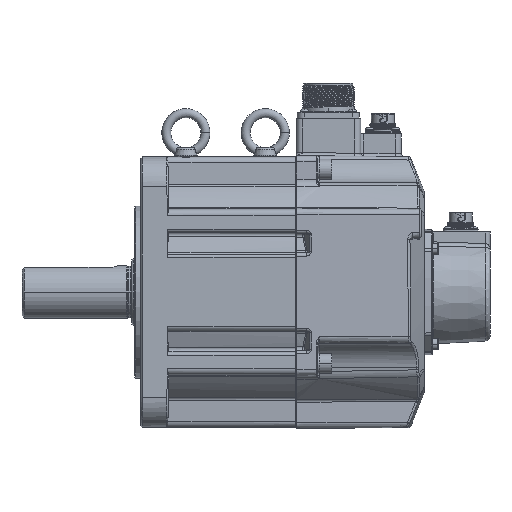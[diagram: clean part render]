
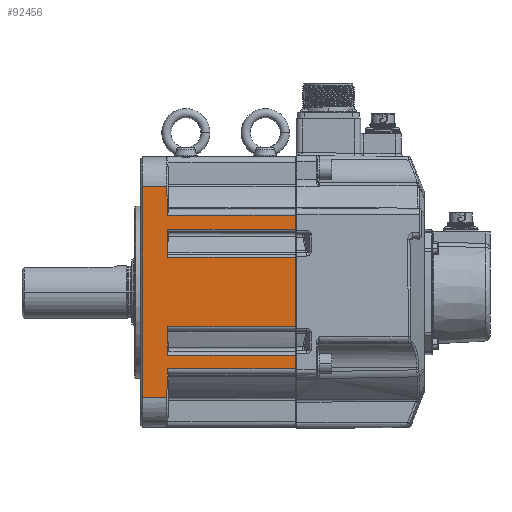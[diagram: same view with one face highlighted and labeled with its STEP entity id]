
A CAD part, left-side view. The second image highlights one B-rep face of the part: STEP entity #92456.
In plain terms, the highlighted planar face has unit normal (-1, 0, 0).
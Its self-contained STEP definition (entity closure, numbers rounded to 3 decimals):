
#17771=DIRECTION('',(0.,0.,-1.));
#17772=VECTOR('',#17771,9.155);
#17773=CARTESIAN_POINT('',(-90.,-76.3,51.103));
#17774=LINE('',#17773,#17772);
#19583=DIRECTION('',(0.,0.,-1.));
#19584=VECTOR('',#19583,9.155);
#19585=CARTESIAN_POINT('',(-90.,-76.3,-41.948));
#19586=LINE('',#19585,#19584);
#19749=DIRECTION('',(0.,1.,0.));
#19750=VECTOR('',#19749,84.8);
#19751=CARTESIAN_POINT('',(-90.,-76.3,41.948));
#19752=LINE('',#19751,#19750);
#19753=DIRECTION('',(0.,1.,0.));
#19754=VECTOR('',#19753,84.8);
#19755=CARTESIAN_POINT('',(-90.,-76.3,23.052));
#19756=LINE('',#19755,#19754);
#19757=DIRECTION('',(0.,0.,-1.));
#19758=VECTOR('',#19757,46.103);
#19759=CARTESIAN_POINT('',(-90.,-76.3,23.052));
#19760=LINE('',#19759,#19758);
#19761=DIRECTION('',(0.,1.,0.));
#19762=VECTOR('',#19761,84.8);
#19763=CARTESIAN_POINT('',(-90.,-76.3,-23.052));
#19764=LINE('',#19763,#19762);
#19765=DIRECTION('',(0.,1.,0.));
#19766=VECTOR('',#19765,84.8);
#19767=CARTESIAN_POINT('',(-90.,-76.3,-41.948));
#19768=LINE('',#19767,#19766);
#19769=DIRECTION('',(0.,1.,0.));
#19770=VECTOR('',#19769,85.121);
#19771=CARTESIAN_POINT('',(-90.,-76.3,-51.103));
#19772=LINE('',#19771,#19770);
#19773=DIRECTION('',(0.,1.,0.));
#19774=VECTOR('',#19773,16.349);
#19775=CARTESIAN_POINT('',(-90.,9.151,
-70.));
#19776=LINE('',#19775,#19774);
#19777=DIRECTION('',(0.,0.,1.));
#19778=VECTOR('',#19777,140.);
#19779=CARTESIAN_POINT('',(-90.,25.5,
-70.));
#19780=LINE('',#19779,#19778);
#19781=DIRECTION('',(0.,-1.,0.));
#19782=VECTOR('',#19781,85.121);
#19783=CARTESIAN_POINT('',(-90.,8.821,51.103));
#19784=LINE('',#19783,#19782);
#19877=DIRECTION('',(0.,0.,1.));
#19878=VECTOR('',#19877,18.897);
#19879=CARTESIAN_POINT('',(-90.,8.5,23.052));
#19880=LINE('',#19879,#19878);
#19941=DIRECTION('',(0.,0.,1.));
#19942=VECTOR('',#19941,18.897);
#19943=CARTESIAN_POINT('',(-90.,8.5,-41.948));
#19944=LINE('',#19943,#19942);
#20124=DIRECTION('',(0.,-0.017,1.));
#20125=VECTOR('',#20124,18.9);
#20126=CARTESIAN_POINT('',(-90.,9.151,
-70.));
#20127=LINE('',#20126,#20125);
#20173=CARTESIAN_POINT('',(-90.,9.151,
-70.));
#21269=CARTESIAN_POINT('',(-90.,9.151,
70.));
#21271=DIRECTION('',(0.,1.,0.));
#21272=VECTOR('',#21271,16.349);
#21273=CARTESIAN_POINT('',(-90.,9.151,
70.));
#21274=LINE('',#21273,#21272);
#21440=DIRECTION('',(0.,0.017,1.));
#21441=VECTOR('',#21440,18.9);
#21442=CARTESIAN_POINT('',(-90.,8.821,51.103));
#21443=LINE('',#21442,#21441);
#57406=CARTESIAN_POINT('',(-90.,25.5,-70.));
#57407=VERTEX_POINT('',#57406);
#57410=CARTESIAN_POINT('',(-90.,25.5,
70.));
#57411=VERTEX_POINT('',#57410);
#57497=VERTEX_POINT('',#21269);
#57500=VERTEX_POINT('',#20173);
#57620=CARTESIAN_POINT('',(-90.,-76.3,41.948));
#57621=CARTESIAN_POINT('',(-90.,8.5,41.948));
#57622=VERTEX_POINT('',#57620);
#57623=VERTEX_POINT('',#57621);
#57632=CARTESIAN_POINT('',(-90.,-76.3,23.052));
#57633=VERTEX_POINT('',#57632);
#57634=CARTESIAN_POINT('',(-90.,8.5,23.052));
#57635=VERTEX_POINT('',#57634);
#57640=CARTESIAN_POINT('',(-90.,-76.3,-41.948));
#57641=VERTEX_POINT('',#57640);
#57642=CARTESIAN_POINT('',(-90.,8.5,-41.948));
#57643=VERTEX_POINT('',#57642);
#57644=CARTESIAN_POINT('',(-90.,-76.3,-23.052));
#57645=CARTESIAN_POINT('',(-90.,8.5,-23.052));
#57646=VERTEX_POINT('',#57644);
#57647=VERTEX_POINT('',#57645);
#57740=CARTESIAN_POINT('',(-90.,-76.3,-51.103));
#57741=CARTESIAN_POINT('',(-90.,8.821,-51.103));
#57742=VERTEX_POINT('',#57740);
#57743=VERTEX_POINT('',#57741);
#57749=CARTESIAN_POINT('',(-90.,-76.3,51.103));
#57751=VERTEX_POINT('',#57749);
#57752=CARTESIAN_POINT('',(-90.,8.821,51.103));
#57753=VERTEX_POINT('',#57752);
#92421=CARTESIAN_POINT('',(-90.,26.5,-70.));
#92422=DIRECTION('',(-1.,0.,0.));
#92423=DIRECTION('',(0.,0.,1.));
#92424=AXIS2_PLACEMENT_3D('',#92421,#92422,#92423);
#92425=PLANE('',#92424);
#92427=ORIENTED_EDGE('',*,*,#92426,.T.);
#92429=ORIENTED_EDGE('',*,*,#92428,.F.);
#92431=ORIENTED_EDGE('',*,*,#92430,.F.);
#92432=ORIENTED_EDGE('',*,*,#90245,.T.);
#92434=ORIENTED_EDGE('',*,*,#92433,.T.);
#92436=ORIENTED_EDGE('',*,*,#92435,.F.);
#92437=ORIENTED_EDGE('',*,*,#92414,.F.);
#92438=ORIENTED_EDGE('',*,*,#92154,.T.);
#92440=ORIENTED_EDGE('',*,*,#92439,.T.);
#92442=ORIENTED_EDGE('',*,*,#92441,.F.);
#92444=ORIENTED_EDGE('',*,*,#92443,.T.);
#92446=ORIENTED_EDGE('',*,*,#92445,.T.);
#92448=ORIENTED_EDGE('',*,*,#92447,.F.);
#92450=ORIENTED_EDGE('',*,*,#92449,.F.);
#92452=ORIENTED_EDGE('',*,*,#92451,.T.);
#92453=ORIENTED_EDGE('',*,*,#89777,.T.);
#92454=EDGE_LOOP('',(#92427,#92429,#92431,#92432,#92434,#92436,#92437,#92438,
#92440,#92442,#92444,#92446,#92448,#92450,#92452,#92453));
#92455=FACE_OUTER_BOUND('',#92454,.F.);
#92456=ADVANCED_FACE('',(#92455),#92425,.T.);
#89777=EDGE_CURVE('',#57751,#57622,#17774,.T.);
#90245=EDGE_CURVE('',#57633,#57646,#19760,.T.);
#92154=EDGE_CURVE('',#57641,#57742,#19586,.T.);
#92414=EDGE_CURVE('',#57641,#57643,#19768,.T.);
#92426=EDGE_CURVE('',#57622,#57623,#19752,.T.);
#92428=EDGE_CURVE('',#57635,#57623,#19880,.T.);
#92430=EDGE_CURVE('',#57633,#57635,#19756,.T.);
#92433=EDGE_CURVE('',#57646,#57647,#19764,.T.);
#92435=EDGE_CURVE('',#57643,#57647,#19944,.T.);
#92439=EDGE_CURVE('',#57742,#57743,#19772,.T.);
#92441=EDGE_CURVE('',#57500,#57743,#20127,.T.);
#92443=EDGE_CURVE('',#57500,#57407,#19776,.T.);
#92445=EDGE_CURVE('',#57407,#57411,#19780,.T.);
#92447=EDGE_CURVE('',#57497,#57411,#21274,.T.);
#92449=EDGE_CURVE('',#57753,#57497,#21443,.T.);
#92451=EDGE_CURVE('',#57753,#57751,#19784,.T.);
